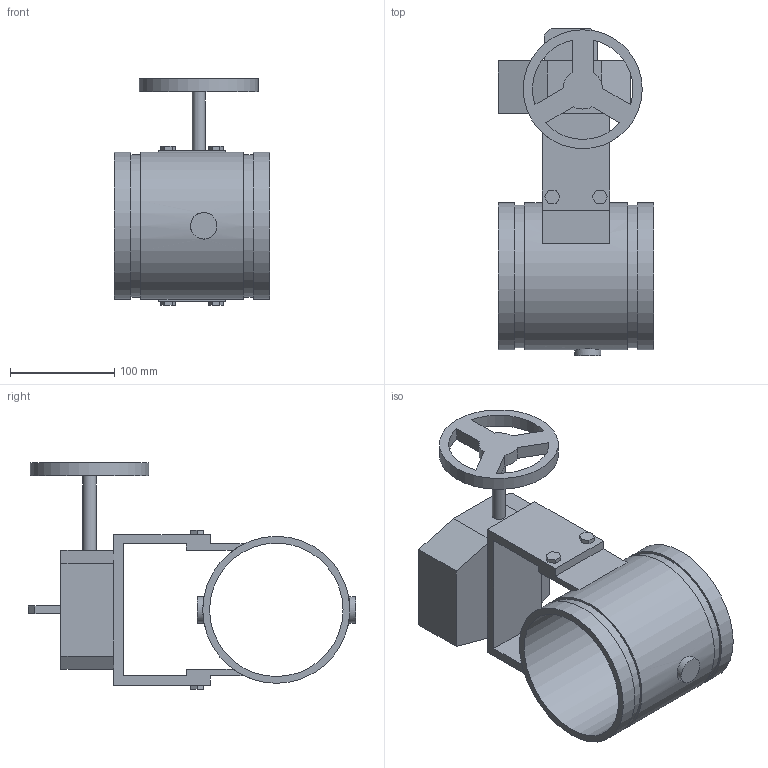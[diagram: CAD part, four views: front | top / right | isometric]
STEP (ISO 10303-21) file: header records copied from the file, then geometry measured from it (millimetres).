
FILE_DESCRIPTION(/* description */ ('VIC FIRELOCK BUTTERFLY VALVE SERIES 707 W/ WEATHERPROOF ACTUATOR FOR 300 PSI','CAx-IF Rec.Pracs.---Representation and Presentation of Product Manufacturing Information (PMI)---4.0---2014-10-13'),/* implementation_level */ '2;1');
FILE_NAME(/* name */ 'C:\Users\Vjadhav\AppData\Roaming\Autodesk\ApplicationPlugins\Back Up\Victaulic_FP-FireLock_Valve Butterfly_Series 707 (OGS)-Closed\Victaulic_FP-FireLock_Valve Butterfly_Series 707 (OGS)-Closed_5 (125).stp',/* time_stamp */ '2020-07-22T11:31:33+05:00',/* author */ ('kkamble'),/* organization */ ('Victaulic'),/* preprocessor_version */ 'ST-DEVELOPER v17.2',/* originating_system */ 'Autodesk Inventor 2019',/* authorisation */ '');
FILE_SCHEMA (('AP242_MANAGED_MODEL_BASED_3D_ENGINEERING_MIM_LF { 1 0 10303 442 1 1 4 }'));
Length unit declared in the file: inch
Products named in the file (1): 707-05.0
Bounding box: 149.61 x 314.45 x 217.68 mm (x, y, z)
Volume: 1413595.9 mm3; surface area: 255523.3 mm2
Topology: 1 solids, 1 shells, 95 faces, 254 edges, 173 vertices
Faces by surface type: plane 79, cylinder 16
Full cylindrical faces by diameter (mm): 12.624 x1, 25.4 x2, 114.3 x1, 128.194 x1, 137.033 x2, 141.3 x3
Entity records: 3306 total; most frequent: CARTESIAN_POINT 609, DIRECTION 515, ORIENTED_EDGE 508, EDGE_CURVE 254, LINE 201, VECTOR 201, VERTEX_POINT 173, AXIS2_PLACEMENT_3D 157
